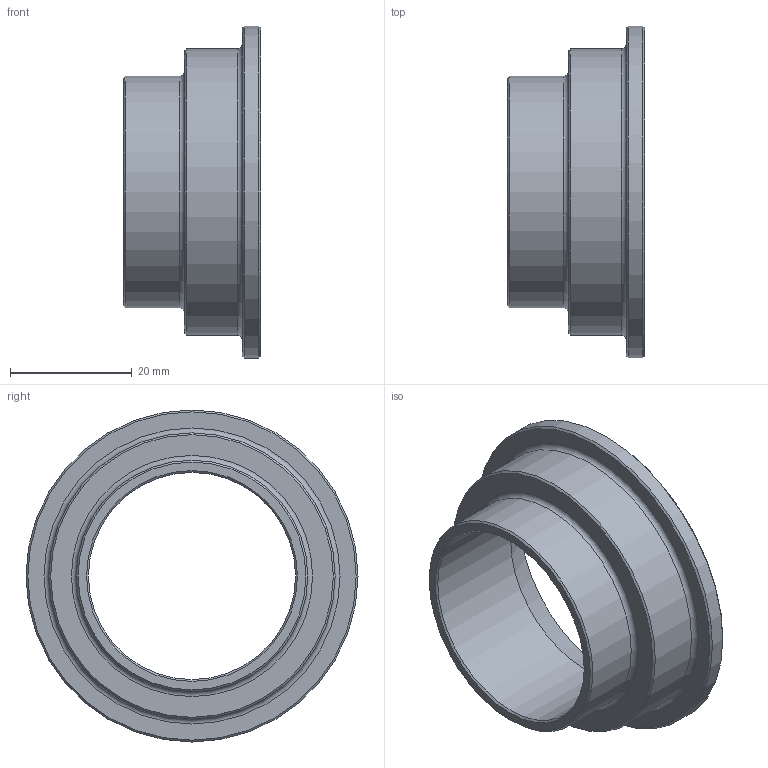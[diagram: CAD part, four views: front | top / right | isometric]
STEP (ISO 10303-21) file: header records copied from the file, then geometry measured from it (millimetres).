
FILE_DESCRIPTION(/* description */ (''),/* implementation_level */ '2;1');
FILE_NAME(/* name */ 'C:\Users\cad\Desktop\Zeichnungen neu von Ralph\3D_Kupplung_R666-SE\3D_R666-SE-38-DN50_17113366.stp',/* time_stamp */ '2021-06-18T08:55:49+02:00',/* author */ ('cad'),/* organization */ (''),/* preprocessor_version */ 'ST-DEVELOPER v18.1',/* originating_system */ 'Autodesk Inventor 2022',/* authorisation */ '');
FILE_SCHEMA (('AUTOMOTIVE_DESIGN { 1 0 10303 214 3 1 1 }'));
Length unit declared in the file: millimetre
Products named in the file (1): 3D_R666-SE-38-DN50_17113366
Bounding box: 22.5 x 54.5 x 54.5 mm (x, y, z)
Volume: 13486.3 mm3; surface area: 7936.7 mm2
Topology: 1 solids, 1 shells, 16 faces, 35 edges, 23 vertices
Faces by surface type: cone 6, cylinder 4, plane 4, torus 2
Full cylindrical faces by diameter (mm): 34 x1, 38 x1, 47 x1, 54.5 x1
Entity records: 501 total; most frequent: DIRECTION 94, CARTESIAN_POINT 75, ORIENTED_EDGE 70, AXIS2_PLACEMENT_3D 42, EDGE_CURVE 35, CIRCLE 25, VERTEX_POINT 23, EDGE_LOOP 20
